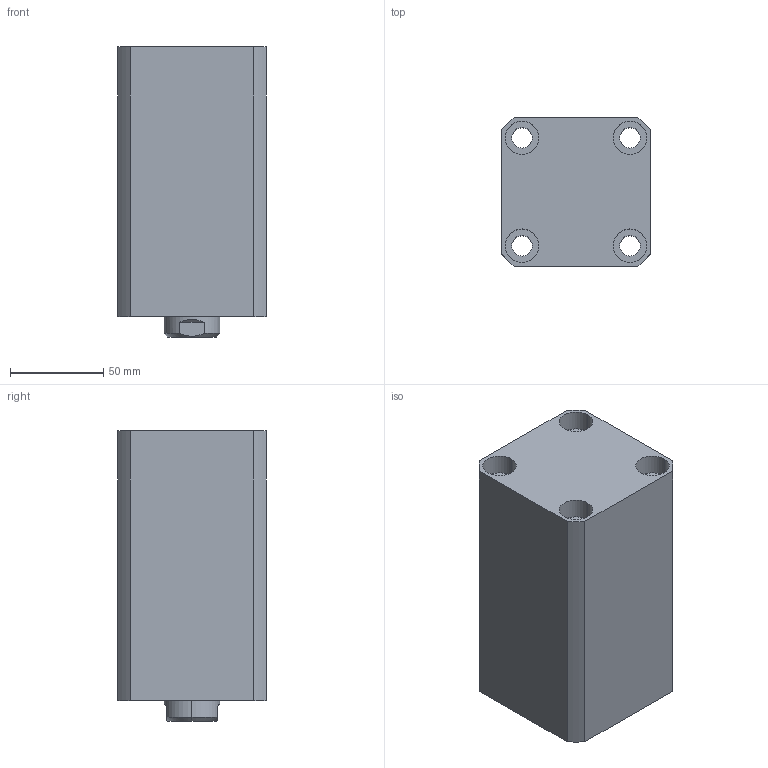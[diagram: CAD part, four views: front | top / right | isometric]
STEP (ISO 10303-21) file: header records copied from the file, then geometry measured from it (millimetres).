
FILE_DESCRIPTION (( 'STEP AP203' ), '1' );
FILE_NAME ('CHTB-SD50-85N.STEP', '2018-05-19T00:38:59', ( '' ), ( '' ), 'SwSTEP 2.0', 'SolidWorks 2015', '' );
FILE_SCHEMA (( 'CONFIG_CONTROL_DESIGN' ));
Length unit declared in the file: millimetre
Products named in the file (4): CHTB-SD50-85N; 活塞杆SD50-85N; CHTM-SD50QG; 掛极SD50-85N
Assembly tree (3 placements, depth 2):
  CHTB-SD50-85N
    掛极SD50-85N
    活塞杆SD50-85N
    CHTM-SD50QG
Bounding box: 80 x 80 x 156 mm (x, y, z)
Volume: 731576.5 mm3; surface area: 137325 mm2
Topology: 3 solids, 3 shells, 194 faces, 499 edges, 330 vertices
Faces by surface type: cylinder 104, plane 39, cone 21, torus 16, bspline 14
Entity records: 10789 total; most frequent: CARTESIAN_POINT 5840, ORIENTED_EDGE 986, DIRECTION 914, EDGE_CURVE 493, AXIS2_PLACEMENT_3D 383, VERTEX_POINT 330, EDGE_LOOP 233, CIRCLE 197
